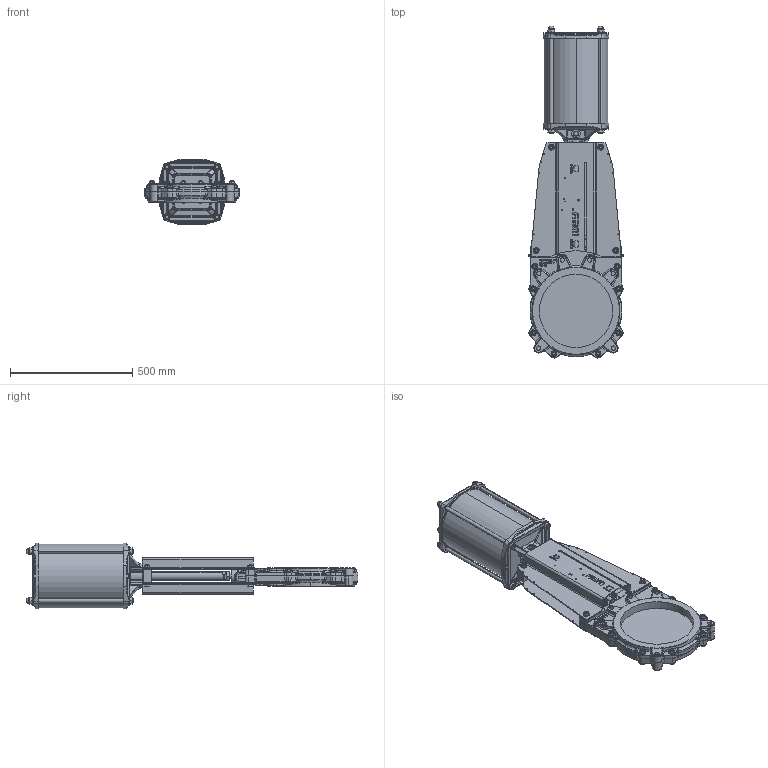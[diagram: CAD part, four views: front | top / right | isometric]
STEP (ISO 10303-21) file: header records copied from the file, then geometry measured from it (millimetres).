
FILE_DESCRIPTION (( 'STEP AP214' ), '1' );
FILE_NAME ('VSC DN 0300 Zyl.-Reihe 2.STEP', '2015-09-23T11:11:37', ( 'admin' ), ( 'Hewlett-Packard Company' ), 'SwSTEP 2.0', 'SolidWorks 2013', '' );
FILE_SCHEMA (( 'AUTOMOTIVE_DESIGN' ));
Length unit declared in the file: millimetre
Products named in the file (1): VSC DN 0300 Zyl.-Reihe 2
Bounding box: 392 x 1359 x 270 mm (x, y, z)
Volume: 13909162.9 mm3; surface area: 2536735 mm2
Topology: 83 solids, 86 shells, 4115 faces, 9781 edges, 5714 vertices
Faces by surface type: plane 1223, cylinder 1106, cone 791, bspline 693, torus 219, sphere 83
Entity records: 190439 total; most frequent: CARTESIAN_POINT 55802, ORIENTED_EDGE 19094, DIRECTION 17591, EDGE_CURVE 9547, AXIS2_PLACEMENT_3D 7059, VERTEX_POINT 5706, EDGE_LOOP 4483, UNCERTAINTY_MEASURE_WITH_UNIT 4200
